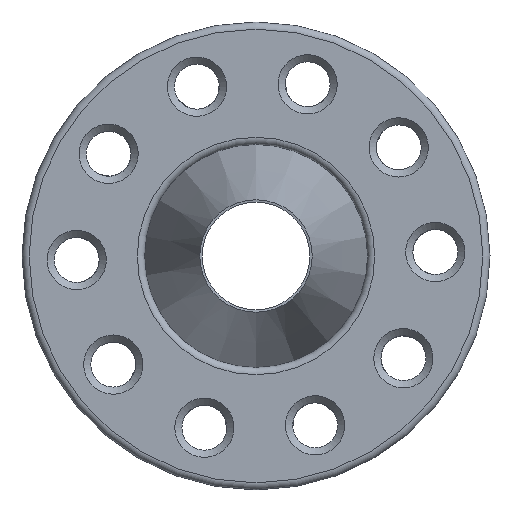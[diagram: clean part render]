
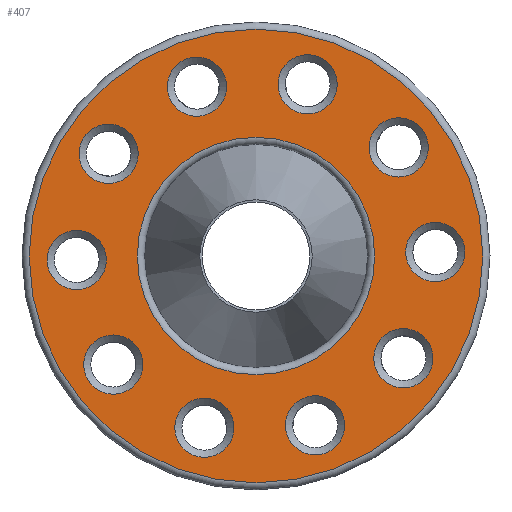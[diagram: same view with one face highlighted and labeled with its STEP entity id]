
A CAD part, left-side view. The second image highlights one B-rep face of the part: STEP entity #407.
In plain terms, the highlighted planar face has unit normal (-1, 0, 0).
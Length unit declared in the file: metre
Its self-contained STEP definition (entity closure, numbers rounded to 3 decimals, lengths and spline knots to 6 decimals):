
#407 = ADVANCED_FACE( '', ( #867, #868, #869, #870, #871, #872, #873, #874, #875, #876, #877, #878 ), #879, .T. );
#867 = FACE_BOUND( '', #6325, .T. );
#868 = FACE_BOUND( '', #6326, .T. );
#869 = FACE_BOUND( '', #6327, .T. );
#870 = FACE_BOUND( '', #6328, .T. );
#871 = FACE_BOUND( '', #6329, .T. );
#872 = FACE_BOUND( '', #6330, .T. );
#873 = FACE_BOUND( '', #6331, .T. );
#874 = FACE_BOUND( '', #6332, .T. );
#875 = FACE_BOUND( '', #6333, .T. );
#876 = FACE_BOUND( '', #6334, .T. );
#877 = FACE_OUTER_BOUND( '', #6335, .T. );
#878 = FACE_BOUND( '', #6336, .T. );
#879 = PLANE( '', #6337 );
#6325 = EDGE_LOOP( '', ( #7302 ) );
#6326 = EDGE_LOOP( '', ( #7303 ) );
#6327 = EDGE_LOOP( '', ( #7304 ) );
#6328 = EDGE_LOOP( '', ( #7305 ) );
#6329 = EDGE_LOOP( '', ( #7306 ) );
#6330 = EDGE_LOOP( '', ( #7307 ) );
#6331 = EDGE_LOOP( '', ( #7308 ) );
#6332 = EDGE_LOOP( '', ( #7309 ) );
#6333 = EDGE_LOOP( '', ( #7310 ) );
#6334 = EDGE_LOOP( '', ( #7311 ) );
#6335 = EDGE_LOOP( '', ( #7312 ) );
#6336 = EDGE_LOOP( '', ( #7313 ) );
#6337 = AXIS2_PLACEMENT_3D( '', #7314, #7315, #7316 );
#7302 = ORIENTED_EDGE( '', *, *, #7721, .T. );
#7303 = ORIENTED_EDGE( '', *, *, #7849, .T. );
#7304 = ORIENTED_EDGE( '', *, *, #7718, .T. );
#7305 = ORIENTED_EDGE( '', *, *, #7471, .T. );
#7306 = ORIENTED_EDGE( '', *, *, #7530, .T. );
#7307 = ORIENTED_EDGE( '', *, *, #7563, .T. );
#7308 = ORIENTED_EDGE( '', *, *, #7599, .T. );
#7309 = ORIENTED_EDGE( '', *, *, #7624, .T. );
#7310 = ORIENTED_EDGE( '', *, *, #7859, .T. );
#7311 = ORIENTED_EDGE( '', *, *, #7602, .T. );
#7312 = ORIENTED_EDGE( '', *, *, #7607, .T. );
#7313 = ORIENTED_EDGE( '', *, *, #7664, .T. );
#7314 = CARTESIAN_POINT( '', ( 0., 0., 0.041921 ) );
#7315 = DIRECTION( '', ( -1., 0., 0. ) );
#7316 = DIRECTION( '', ( 0., 0., 1. ) );
#7471 = EDGE_CURVE( '', #7883, #7883, #7884, .F. );
#7530 = EDGE_CURVE( '', #7985, #7985, #7986, .F. );
#7563 = EDGE_CURVE( '', #8041, #8041, #8042, .F. );
#7599 = EDGE_CURVE( '', #8095, #8095, #8096, .F. );
#7602 = EDGE_CURVE( '', #8100, #8100, #8101, .F. );
#7607 = EDGE_CURVE( '', #8108, #8108, #8109, .T. );
#7624 = EDGE_CURVE( '', #8136, #8136, #8137, .F. );
#7664 = EDGE_CURVE( '', #8198, #8198, #8199, .F. );
#7718 = EDGE_CURVE( '', #8273, #8273, #8274, .F. );
#7721 = EDGE_CURVE( '', #8278, #8278, #8279, .F. );
#7849 = EDGE_CURVE( '', #8439, #8439, #8440, .F. );
#7859 = EDGE_CURVE( '', #8450, #8450, #8451, .F. );
#7883 = VERTEX_POINT( '', #8475 );
#7884 = CIRCLE( '', #8476, 0.008258 );
#7985 = VERTEX_POINT( '', #8867 );
#7986 = CIRCLE( '', #8868, 0.008258 );
#8041 = VERTEX_POINT( '', #9353 );
#8042 = CIRCLE( '', #9354, 0.008258 );
#8095 = VERTEX_POINT( '', #9458 );
#8096 = CIRCLE( '', #9459, 0.008258 );
#8100 = VERTEX_POINT( '', #9463 );
#8101 = CIRCLE( '', #9464, 0.008258 );
#8108 = VERTEX_POINT( '', #9471 );
#8109 = CIRCLE( '', #9472, 0.063244 );
#8136 = VERTEX_POINT( '', #9501 );
#8137 = CIRCLE( '', #9502, 0.008258 );
#8198 = VERTEX_POINT( '', #9650 );
#8199 = CIRCLE( '', #9651, 0.0331 );
#8273 = VERTEX_POINT( '', #10561 );
#8274 = CIRCLE( '', #10562, 0.008258 );
#8278 = VERTEX_POINT( '', #10566 );
#8279 = CIRCLE( '', #10567, 0.008258 );
#8439 = VERTEX_POINT( '', #13003 );
#8440 = CIRCLE( '', #13004, 0.008258 );
#8450 = VERTEX_POINT( '', #13014 );
#8451 = CIRCLE( '', #13015, 0.008258 );
#8475 = CARTESIAN_POINT( '', ( 0., 0.041088, 0.03675 ) );
#8476 = AXIS2_PLACEMENT_3D( '', #13042, #13043, #13044 );
#8867 = CARTESIAN_POINT( '', ( 0., 0.049988, 0.007157 ) );
#8868 = AXIS2_PLACEMENT_3D( '', #13139, #13140, #13141 );
#9353 = CARTESIAN_POINT( '', ( 0., 0.039794, -0.022015 ) );
#9354 = AXIS2_PLACEMENT_3D( '', #13192, #13193, #13194 );
#9458 = CARTESIAN_POINT( '', ( 0., 0.0144, -0.039624 ) );
#9459 = AXIS2_PLACEMENT_3D( '', #13256, #13257, #13258 );
#9463 = CARTESIAN_POINT( '', ( 0., -0.049988, 0.009358 ) );
#9464 = AXIS2_PLACEMENT_3D( '', #13262, #13263, #13264 );
#9471 = CARTESIAN_POINT( '', ( 0., 0., 0.063244 ) );
#9472 = AXIS2_PLACEMENT_3D( '', #13271, #13272, #13273 );
#9501 = CARTESIAN_POINT( '', ( 0., -0.016494, -0.038943 ) );
#9502 = AXIS2_PLACEMENT_3D( '', #13306, #13307, #13308 );
#9650 = CARTESIAN_POINT( '', ( 0., 0., 0.0331 ) );
#9651 = AXIS2_PLACEMENT_3D( '', #13374, #13375, #13376 );
#10561 = CARTESIAN_POINT( '', ( 0., 0.016494, 0.055459 ) );
#10562 = AXIS2_PLACEMENT_3D( '', #13436, #13437, #13438 );
#10566 = CARTESIAN_POINT( '', ( 0., -0.039794, 0.03853 ) );
#10567 = AXIS2_PLACEMENT_3D( '', #13442, #13443, #13444 );
#13003 = CARTESIAN_POINT( '', ( 0., -0.0144, 0.056139 ) );
#13004 = AXIS2_PLACEMENT_3D( '', #13577, #13578, #13579 );
#13014 = CARTESIAN_POINT( '', ( 0., -0.041088, -0.020234 ) );
#13015 = AXIS2_PLACEMENT_3D( '', #13586, #13587, #13588 );
#13042 = CARTESIAN_POINT( '', ( 0., 0.041088, 0.028492 ) );
#13043 = DIRECTION( '', ( -1., 0., 0. ) );
#13044 = DIRECTION( '', ( 0., 0., 1. ) );
#13139 = CARTESIAN_POINT( '', ( 0., 0.049988, -0.001101 ) );
#13140 = DIRECTION( '', ( -1., 0., 0. ) );
#13141 = DIRECTION( '', ( 0., 0., 1. ) );
#13192 = CARTESIAN_POINT( '', ( 0., 0.039794, -0.030273 ) );
#13193 = DIRECTION( '', ( -1., 0., 0. ) );
#13194 = DIRECTION( '', ( 0., 0., 1. ) );
#13256 = CARTESIAN_POINT( '', ( 0., 0.0144, -0.047881 ) );
#13257 = DIRECTION( '', ( -1., 0., 0. ) );
#13258 = DIRECTION( '', ( 0., 0., 1. ) );
#13262 = CARTESIAN_POINT( '', ( 0., -0.049988, 0.001101 ) );
#13263 = DIRECTION( '', ( -1., 0., 0. ) );
#13264 = DIRECTION( '', ( 0., 0., 1. ) );
#13271 = CARTESIAN_POINT( '', ( 0., 0., 0. ) );
#13272 = DIRECTION( '', ( -1., 0., 0. ) );
#13273 = DIRECTION( '', ( 0., 0., 1. ) );
#13306 = CARTESIAN_POINT( '', ( 0., -0.016494, -0.047201 ) );
#13307 = DIRECTION( '', ( -1., 0., 0. ) );
#13308 = DIRECTION( '', ( 0., 0., 1. ) );
#13374 = CARTESIAN_POINT( '', ( 0., 0., 0. ) );
#13375 = DIRECTION( '', ( -1., 0., 0. ) );
#13376 = DIRECTION( '', ( 0., 0., 1. ) );
#13436 = CARTESIAN_POINT( '', ( 0., 0.016494, 0.047201 ) );
#13437 = DIRECTION( '', ( -1., 0., 0. ) );
#13438 = DIRECTION( '', ( 0., 0., 1. ) );
#13442 = CARTESIAN_POINT( '', ( 0., -0.039794, 0.030273 ) );
#13443 = DIRECTION( '', ( -1., 0., 0. ) );
#13444 = DIRECTION( '', ( 0., 0., 1. ) );
#13577 = CARTESIAN_POINT( '', ( 0., -0.0144, 0.047881 ) );
#13578 = DIRECTION( '', ( -1., 0., 0. ) );
#13579 = DIRECTION( '', ( 0., 0., 1. ) );
#13586 = CARTESIAN_POINT( '', ( 0., -0.041088, -0.028492 ) );
#13587 = DIRECTION( '', ( -1., 0., 0. ) );
#13588 = DIRECTION( '', ( 0., 0., 1. ) );
